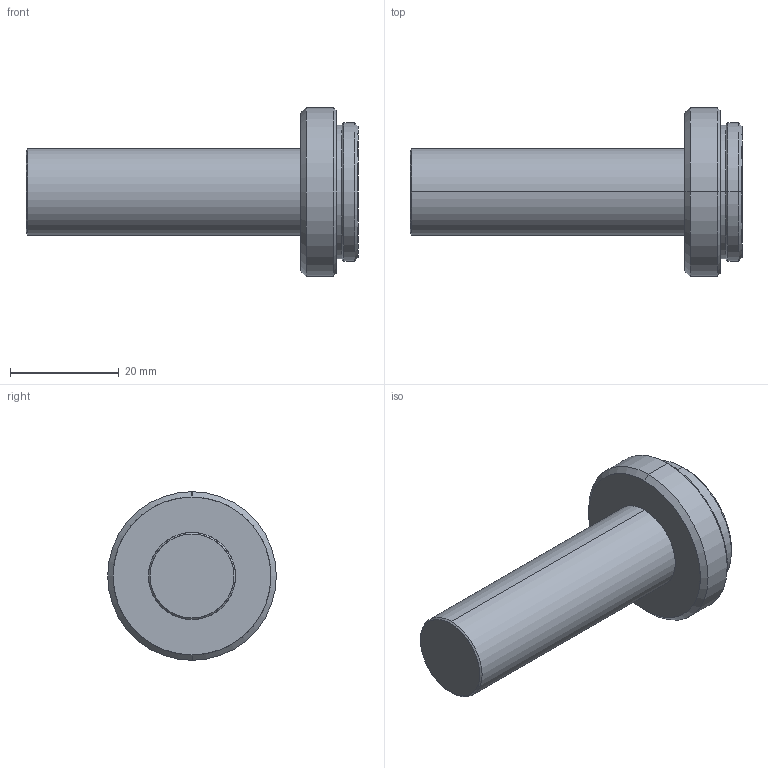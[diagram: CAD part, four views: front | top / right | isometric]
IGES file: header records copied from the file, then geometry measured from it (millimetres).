
Start section: SolidWorks IGES file using analytic representation for surfaces
Bounding box: 61 x 31 x 31 mm (x, y, z)
Surface area: 4916.9 mm2 (no closed solid volume)
Topology: 0 solids, 0 shells, 22 faces, 328 edges, 328 vertices
Faces by surface type: revolution 18, bspline 4
